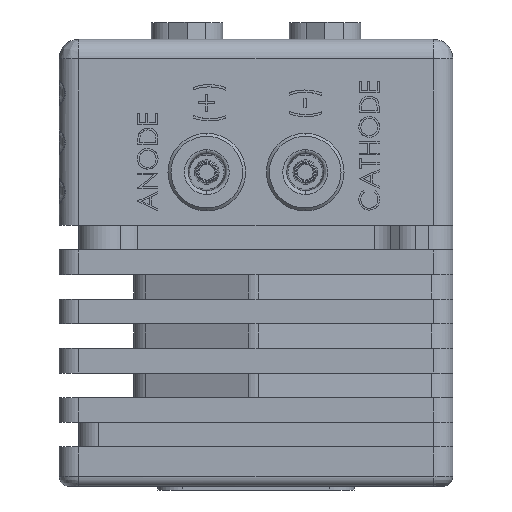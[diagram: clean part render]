
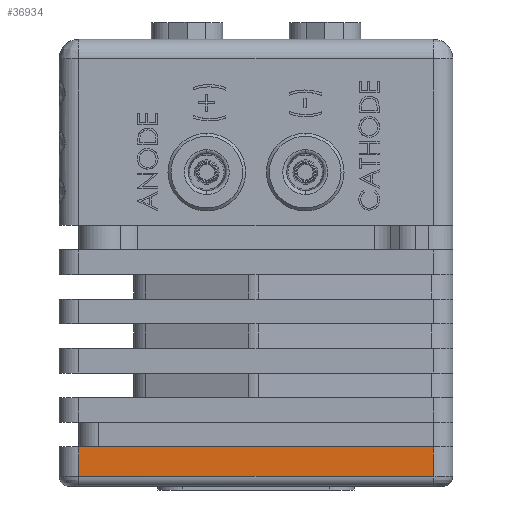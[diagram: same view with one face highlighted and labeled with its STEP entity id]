
A CAD part, left-side view. The second image highlights one B-rep face of the part: STEP entity #36934.
In plain terms, the highlighted planar face has unit normal (-1, 0, 0).
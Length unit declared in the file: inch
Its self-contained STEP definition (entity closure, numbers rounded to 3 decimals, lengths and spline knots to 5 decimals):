
#1279 = ORIENTED_EDGE ( 'NONE', *, *, #129771, .T. ) ;
#3705 = VERTEX_POINT ( 'NONE', #39895 ) ;
#4057 = EDGE_CURVE ( 'NONE', #53484, #35699, #7395, .T. ) ;
#4284 = FACE_OUTER_BOUND ( 'NONE', #72856, .T. ) ;
#7395 = LINE ( 'NONE', #55331, #118264 ) ;
#9316 = CARTESIAN_POINT ( 'NONE',  ( -1., 0., -0.55 ) ) ;
#12136 = CARTESIAN_POINT ( 'NONE',  ( -1., 0., -0.4 ) ) ;
#12461 = CARTESIAN_POINT ( 'NONE',  ( -1., -0.9, -0.4 ) ) ;
#19236 = LINE ( 'NONE', #22876, #64785 ) ;
#22876 = CARTESIAN_POINT ( 'NONE',  ( -1., 0.9, -0.475 ) ) ;
#29119 = CARTESIAN_POINT ( 'NONE',  ( -1., 0.9, -0.4 ) ) ;
#35699 = VERTEX_POINT ( 'NONE', #72038 ) ;
#36934 = ADVANCED_FACE ( 'NONE', ( #4284 ), #82625, .F. ) ;
#39895 = CARTESIAN_POINT ( 'NONE',  ( -1., 0.9, -0.55 ) ) ;
#49343 = EDGE_CURVE ( 'NONE', #3705, #35699, #59280, .T. ) ;
#52167 = CARTESIAN_POINT ( 'NONE',  ( -1., -0.9, -0.55 ) ) ;
#53484 = VERTEX_POINT ( 'NONE', #12461 ) ;
#55331 = CARTESIAN_POINT ( 'NONE',  ( -1., -0.9, -0.475 ) ) ;
#59280 = LINE ( 'NONE', #9316, #107963 ) ;
#59614 = VECTOR ( 'NONE', #64025, 39.37008 ) ;
#62604 = DIRECTION ( 'NONE',  ( 0., 1., 0. ) ) ;
#64025 = DIRECTION ( 'NONE',  ( 0., -1., 0. ) ) ;
#64785 = VECTOR ( 'NONE', #105968, 39.37008 ) ;
#66034 = EDGE_CURVE ( 'NONE', #117389, #53484, #114851, .T. ) ;
#72038 = CARTESIAN_POINT ( 'NONE',  ( -1., -0.9, -0.55 ) ) ;
#72856 = EDGE_LOOP ( 'NONE', ( #109729, #1279, #111466, #123476 ) ) ;
#82625 = PLANE ( 'NONE',  #108577 ) ;
#105968 = DIRECTION ( 'NONE',  ( 0., 0., -1. ) ) ;
#107963 = VECTOR ( 'NONE', #134790, 39.37008 ) ;
#108577 = AXIS2_PLACEMENT_3D ( 'NONE', #52167, #124796, #62604 ) ;
#109729 = ORIENTED_EDGE ( 'NONE', *, *, #66034, .F. ) ;
#111466 = ORIENTED_EDGE ( 'NONE', *, *, #49343, .T. ) ;
#114851 = LINE ( 'NONE', #12136, #59614 ) ;
#117389 = VERTEX_POINT ( 'NONE', #29119 ) ;
#118264 = VECTOR ( 'NONE', #126910, 39.37008 ) ;
#123476 = ORIENTED_EDGE ( 'NONE', *, *, #4057, .F. ) ;
#124796 = DIRECTION ( 'NONE',  ( 1., 0., 0. ) ) ;
#126910 = DIRECTION ( 'NONE',  ( 0., 0., -1. ) ) ;
#129771 = EDGE_CURVE ( 'NONE', #117389, #3705, #19236, .T. ) ;
#134790 = DIRECTION ( 'NONE',  ( 0., -1., 0. ) ) ;
